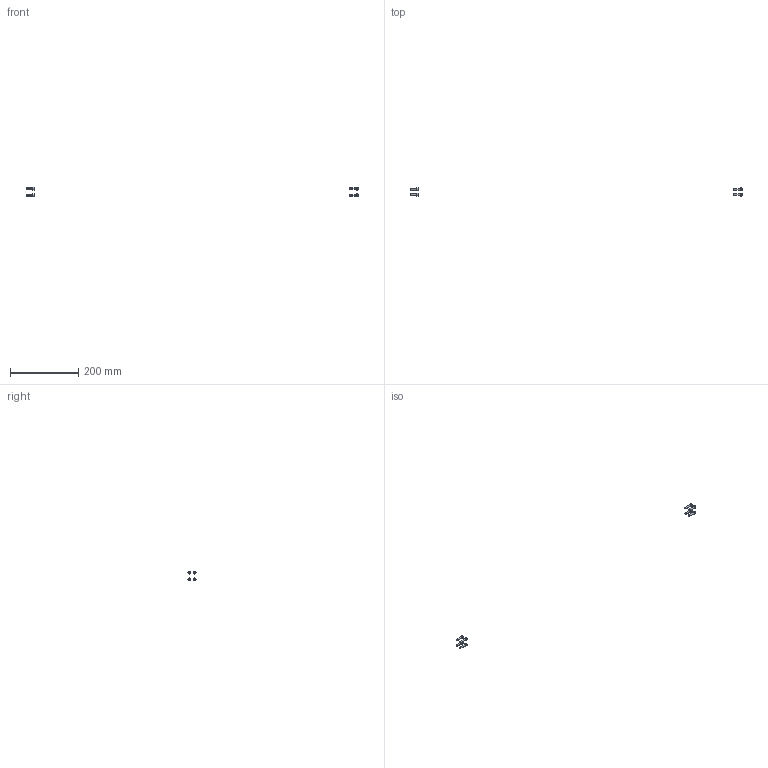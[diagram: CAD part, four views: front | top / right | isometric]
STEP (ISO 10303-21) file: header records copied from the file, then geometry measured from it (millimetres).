
FILE_DESCRIPTION(/* description */ (''),/* implementation_level */ '2;1');
FILE_NAME(/* name */ '10.optics-laser#10.4#CB5-20',/* time_stamp */ '2014-12-01T20:19:17+01:00',/* author */ (''),/* organization */ (''),/* preprocessor_version */ 'ST-DEVELOPER v14',/* originating_system */ '',/* authorisation */ '');
FILE_SCHEMA (('AUTOMOTIVE_DESIGN'));
Length unit declared in the file: millimetre
Products named in the file (2): Document; screw DIN912-like, M5x20
Assembly tree (8 placements, depth 2):
  Document
    screw DIN912-like, M5x20  x8
Bounding box: 975 x 23.5 x 28.5 mm (x, y, z)
Volume: 5093 mm3; surface area: 4669.8 mm2
Topology: 8 solids, 8 shells, 200 faces, 448 edges, 264 vertices
Faces by surface type: plane 120, bspline 80
Entity records: 1461 total; most frequent: CARTESIAN_POINT 639, B_SPLINE_CURVE_WITH_KNOTS 126, ORIENTED_EDGE 108, PCURVE 108, DEFINITIONAL_REPRESENTATION 108, SURFACE_CURVE 54, EDGE_CURVE 54, DIRECTION 37
